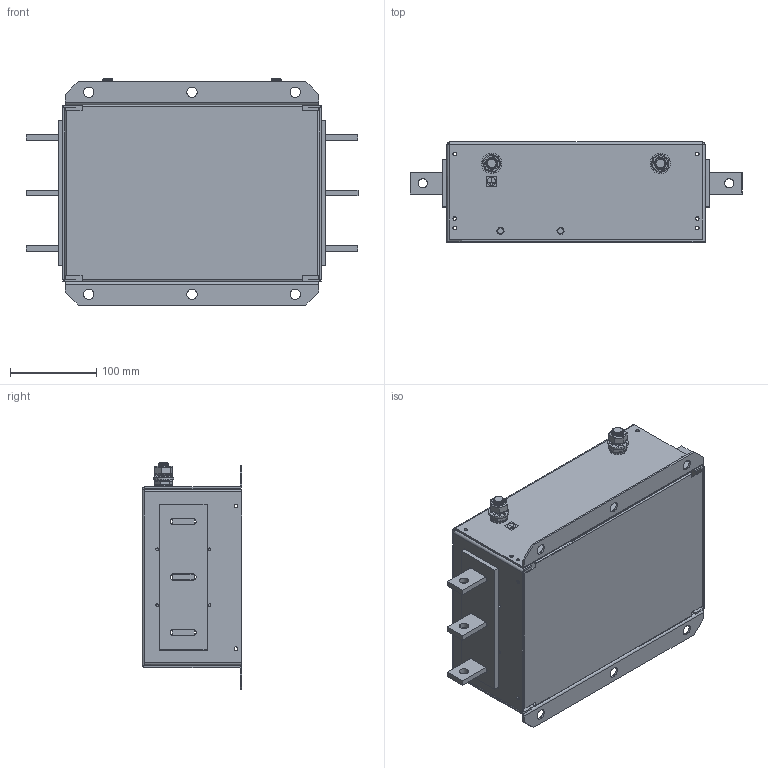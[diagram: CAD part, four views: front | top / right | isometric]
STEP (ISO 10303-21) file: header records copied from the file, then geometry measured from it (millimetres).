
FILE_DESCRIPTION (( 'STEP AP214' ), '1' );
FILE_NAME ('KMF3420.STEP', '2015-01-20T16:37:53', ( '' ), ( '' ), 'SwSTEP 2.0', 'SolidWorks 2014', '' );
FILE_SCHEMA (( 'AUTOMOTIVE_DESIGN' ));
Length unit declared in the file: millimetre
Products named in the file (19): NUT122; WSH148; WSH173; NUT123; WSH112; WSH167; GRO034; PEM BSO-M4-12 ZI--S_PEM BSO-M4-12 ZI--S; SCR229_SCR229; ISO 7045 - M4 x 6 - Z --- 6C_ISO 7045 - M4 x 6 - Z --- 6C; box576; Box577; KMF3420; COP434; COP435; COP436; LBL47
Assembly tree (32 placements, depth 2):
  WSH112
  ISO 7045 - M4 x 6 - Z --- 6C_ISO 7045 - M4 x 6 - Z --- 6C
  KMF3420
    Box577
    box576
    ISO 7045 - M4 x 6 - Z --- 6C_ISO 7045 - M4 x 6 - Z --- 6C  x4
    SCR229_SCR229  x2
    PEM BSO-M4-12 ZI--S_PEM BSO-M4-12 ZI--S  x4
    GRO034  x2
    WSH167  x2
    WSH112  x4
    NUT123  x2
    WSH173  x2
    WSH148  x2
    NUT122  x2
    LBL47
    COP436
    COP435
    COP434
Bounding box: 386 x 116 x 263 mm (x, y, z)
Volume: 684019.1 mm3; surface area: 588595 mm2
Topology: 36 solids, 36 shells, 1716 faces, 4330 edges, 2694 vertices
Faces by surface type: plane 748, cylinder 584, cone 328, torus 36, bspline 12, sphere 8
Entity records: 28673 total; most frequent: CARTESIAN_POINT 6201, DIRECTION 4583, ORIENTED_EDGE 4412, EDGE_CURVE 2206, AXIS2_PLACEMENT_3D 1640, VERTEX_POINT 1383, LINE 1303, VECTOR 1303
